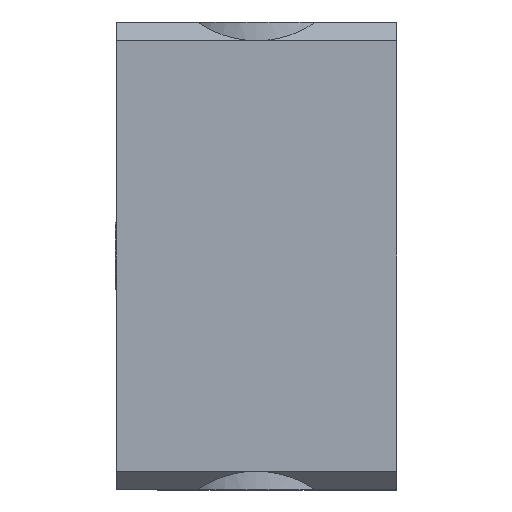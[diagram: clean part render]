
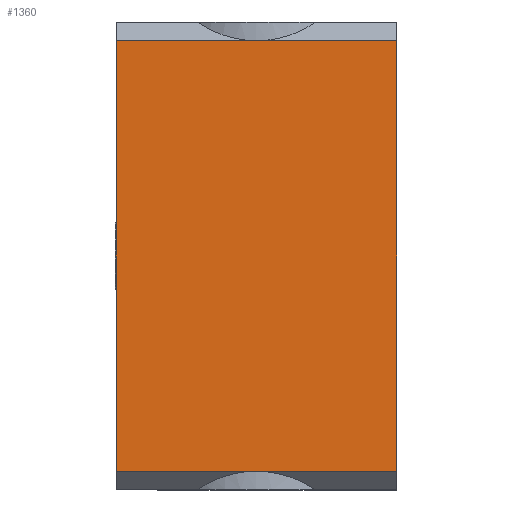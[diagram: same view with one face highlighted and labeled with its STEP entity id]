
A CAD part, left-side view. The second image highlights one B-rep face of the part: STEP entity #1360.
In plain terms, the highlighted planar face has unit normal (-1, 0, 0).
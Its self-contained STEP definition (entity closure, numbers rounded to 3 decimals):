
#130 = EDGE_LOOP ( 'NONE', ( #2036, #2667, #3818, #9953, #3941, #13287 ) ) ;
#298 = VERTEX_POINT ( 'NONE', #11891 ) ;
#317 = DIRECTION ( 'NONE',  ( 0., 0., -1. ) ) ;
#474 = CARTESIAN_POINT ( 'NONE',  ( -35., 0., -23. ) ) ;
#595 = DIRECTION ( 'NONE',  ( 0., 1., 0. ) ) ;
#1112 = VERTEX_POINT ( 'NONE', #474 ) ;
#1360 = ADVANCED_FACE ( 'NONE', ( #2175 ), #13539, .F. ) ;
#2036 = ORIENTED_EDGE ( 'NONE', *, *, #2480, .T. ) ;
#2175 = FACE_OUTER_BOUND ( 'NONE', #130, .T. ) ;
#2480 = EDGE_CURVE ( 'NONE', #9796, #1112, #8325, .T. ) ;
#2667 = ORIENTED_EDGE ( 'NONE', *, *, #6127, .T. ) ;
#2819 = CARTESIAN_POINT ( 'NONE',  ( -35., -15., 23. ) ) ;
#2994 = CARTESIAN_POINT ( 'NONE',  ( -35., -15., 23. ) ) ;
#3023 = EDGE_CURVE ( 'NONE', #298, #10228, #4728, .T. ) ;
#3781 = CARTESIAN_POINT ( 'NONE',  ( -35., -15., -23. ) ) ;
#3818 = ORIENTED_EDGE ( 'NONE', *, *, #3023, .F. ) ;
#3941 = ORIENTED_EDGE ( 'NONE', *, *, #10188, .T. ) ;
#4020 = VECTOR ( 'NONE', #595, 1000. ) ;
#4675 = VECTOR ( 'NONE', #14094, 1000. ) ;
#4728 = LINE ( 'NONE', #5901, #8141 ) ;
#5106 = CARTESIAN_POINT ( 'NONE',  ( -35., -15., -23. ) ) ;
#5225 = DIRECTION ( 'NONE',  ( 0., -1., 0. ) ) ;
#5438 = VECTOR ( 'NONE', #10054, 1000. ) ;
#5675 = CARTESIAN_POINT ( 'NONE',  ( -35., 15., -23. ) ) ;
#5901 = CARTESIAN_POINT ( 'NONE',  ( -35., -15., 25. ) ) ;
#6127 = EDGE_CURVE ( 'NONE', #1112, #10228, #9501, .T. ) ;
#6657 = DIRECTION ( 'NONE',  ( 1., 0., 0. ) ) ;
#6944 = LINE ( 'NONE', #2994, #14325 ) ;
#7472 = VERTEX_POINT ( 'NONE', #8020 ) ;
#7809 = CARTESIAN_POINT ( 'NONE',  ( -35., -15., 25. ) ) ;
#8020 = CARTESIAN_POINT ( 'NONE',  ( -35., 0., 23. ) ) ;
#8141 = VECTOR ( 'NONE', #317, 1000. ) ;
#8230 = EDGE_CURVE ( 'NONE', #14003, #9796, #11097, .T. ) ;
#8325 = LINE ( 'NONE', #9815, #9738 ) ;
#9114 = CARTESIAN_POINT ( 'NONE',  ( -35., 15., 23. ) ) ;
#9501 = LINE ( 'NONE', #5106, #4675 ) ;
#9510 = LINE ( 'NONE', #2819, #4020 ) ;
#9738 = VECTOR ( 'NONE', #5225, 1000. ) ;
#9796 = VERTEX_POINT ( 'NONE', #5675 ) ;
#9815 = CARTESIAN_POINT ( 'NONE',  ( -35., -15., -23. ) ) ;
#9953 = ORIENTED_EDGE ( 'NONE', *, *, #12832, .T. ) ;
#10054 = DIRECTION ( 'NONE',  ( 0., 0., -1. ) ) ;
#10188 = EDGE_CURVE ( 'NONE', #7472, #14003, #9510, .T. ) ;
#10228 = VERTEX_POINT ( 'NONE', #3781 ) ;
#11097 = LINE ( 'NONE', #13219, #5438 ) ;
#11891 = CARTESIAN_POINT ( 'NONE',  ( -35., -15., 23. ) ) ;
#12311 = DIRECTION ( 'NONE',  ( 0., 0., -1. ) ) ;
#12832 = EDGE_CURVE ( 'NONE', #298, #7472, #6944, .T. ) ;
#13113 = DIRECTION ( 'NONE',  ( 0., 1., 0. ) ) ;
#13219 = CARTESIAN_POINT ( 'NONE',  ( -35., 15., 25. ) ) ;
#13287 = ORIENTED_EDGE ( 'NONE', *, *, #8230, .T. ) ;
#13385 = AXIS2_PLACEMENT_3D ( 'NONE', #7809, #6657, #12311 ) ;
#13539 = PLANE ( 'NONE',  #13385 ) ;
#14003 = VERTEX_POINT ( 'NONE', #9114 ) ;
#14094 = DIRECTION ( 'NONE',  ( 0., -1., 0. ) ) ;
#14325 = VECTOR ( 'NONE', #13113, 1000. ) ;
